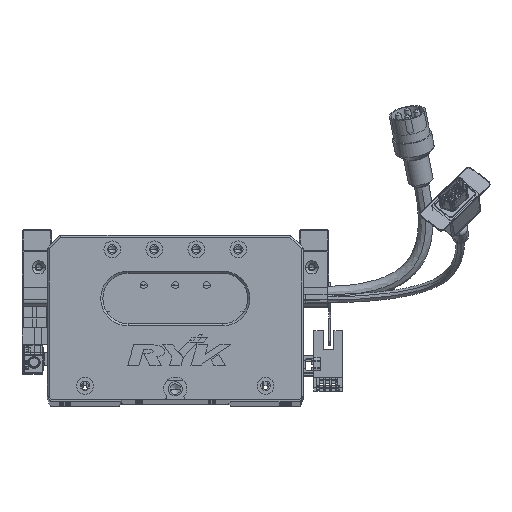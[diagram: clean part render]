
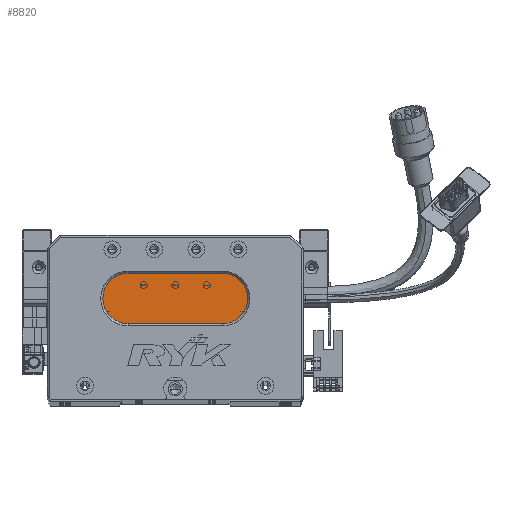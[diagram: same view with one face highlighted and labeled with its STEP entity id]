
A CAD part, top view. The second image highlights one B-rep face of the part: STEP entity #8820.
In plain terms, the highlighted planar face has unit normal (0, 0, 1) as drawn and (0, 0, -1) by its records, which use the part's own axes.
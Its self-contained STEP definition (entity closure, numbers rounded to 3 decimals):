
#1223 = ORIENTED_EDGE ( 'NONE', *, *, #32732, .T. ) ;
#2241 = PLANE ( 'NONE',  #26961 ) ;
#8180 = CIRCLE ( 'NONE', #62281, 12. ) ;
#8820 = ADVANCED_FACE ( 'NONE', ( #48972 ), #2241, .T. ) ;
#10329 = EDGE_CURVE ( 'NONE', #83213, #14822, #35464, .T. ) ;
#10638 = CARTESIAN_POINT ( 'NONE',  ( 83.5, 60., 13. ) ) ;
#11872 = CARTESIAN_POINT ( 'NONE',  ( 38.5, 48., 13. ) ) ;
#12162 = DIRECTION ( 'NONE',  ( 0., 0., -1. ) ) ;
#12724 = CARTESIAN_POINT ( 'NONE',  ( 38.5, 36., 13. ) ) ;
#13393 = CARTESIAN_POINT ( 'NONE',  ( 83.5, 60., 13. ) ) ;
#14822 = VERTEX_POINT ( 'NONE', #12724 ) ;
#15935 = DIRECTION ( 'NONE',  ( -1., 0., 0. ) ) ;
#16682 = VECTOR ( 'NONE', #40408, 1000. ) ;
#19395 = DIRECTION ( 'NONE',  ( -1., 0., 0. ) ) ;
#21140 = CIRCLE ( 'NONE', #66830, 12. ) ;
#24911 = EDGE_CURVE ( 'NONE', #63231, #83213, #8180, .T. ) ;
#26961 = AXIS2_PLACEMENT_3D ( 'NONE', #29716, #73147, #79398 ) ;
#29716 = CARTESIAN_POINT ( 'NONE',  ( 83.5, 48., 13. ) ) ;
#32732 = EDGE_CURVE ( 'NONE', #38661, #63231, #65928, .T. ) ;
#34857 = ORIENTED_EDGE ( 'NONE', *, *, #51013, .T. ) ;
#35464 = LINE ( 'NONE', #46674, #16682 ) ;
#37221 = DIRECTION ( 'NONE',  ( 0., 0., -1. ) ) ;
#37517 = DIRECTION ( 'NONE',  ( 1., 0., 0. ) ) ;
#37727 = ORIENTED_EDGE ( 'NONE', *, *, #10329, .T. ) ;
#38661 = VERTEX_POINT ( 'NONE', #83187 ) ;
#40408 = DIRECTION ( 'NONE',  ( -1., 0., 0. ) ) ;
#43672 = CARTESIAN_POINT ( 'NONE',  ( 26.5, 48., 13. ) ) ;
#44174 = CARTESIAN_POINT ( 'NONE',  ( 83.5, 36., 13. ) ) ;
#44739 = ORIENTED_EDGE ( 'NONE', *, *, #71382, .T. ) ;
#46674 = CARTESIAN_POINT ( 'NONE',  ( 83.5, 36., 13. ) ) ;
#47242 = DIRECTION ( 'NONE',  ( 0., 0., -1. ) ) ;
#48972 = FACE_OUTER_BOUND ( 'NONE', #49388, .T. ) ;
#49388 = EDGE_LOOP ( 'NONE', ( #53053, #37727, #44739, #34857, #1223 ) ) ;
#50895 = CARTESIAN_POINT ( 'NONE',  ( 38.5, 48., 13. ) ) ;
#51013 = EDGE_CURVE ( 'NONE', #56538, #38661, #21140, .T. ) ;
#53053 = ORIENTED_EDGE ( 'NONE', *, *, #24911, .T. ) ;
#56538 = VERTEX_POINT ( 'NONE', #43672 ) ;
#61399 = DIRECTION ( 'NONE',  ( -1., 0., 0. ) ) ;
#62281 = AXIS2_PLACEMENT_3D ( 'NONE', #62743, #47242, #19395 ) ;
#62743 = CARTESIAN_POINT ( 'NONE',  ( 83.5, 48., 13. ) ) ;
#63231 = VERTEX_POINT ( 'NONE', #13393 ) ;
#65928 = LINE ( 'NONE', #10638, #84803 ) ;
#66830 = AXIS2_PLACEMENT_3D ( 'NONE', #50895, #37221, #15935 ) ;
#71382 = EDGE_CURVE ( 'NONE', #14822, #56538, #76744, .T. ) ;
#73147 = DIRECTION ( 'NONE',  ( 0., 0., -1. ) ) ;
#76744 = CIRCLE ( 'NONE', #87653, 12. ) ;
#79398 = DIRECTION ( 'NONE',  ( -1., 0., 0. ) ) ;
#83187 = CARTESIAN_POINT ( 'NONE',  ( 38.5, 60., 13. ) ) ;
#83213 = VERTEX_POINT ( 'NONE', #44174 ) ;
#84803 = VECTOR ( 'NONE', #37517, 1000. ) ;
#87653 = AXIS2_PLACEMENT_3D ( 'NONE', #11872, #12162, #61399 ) ;
